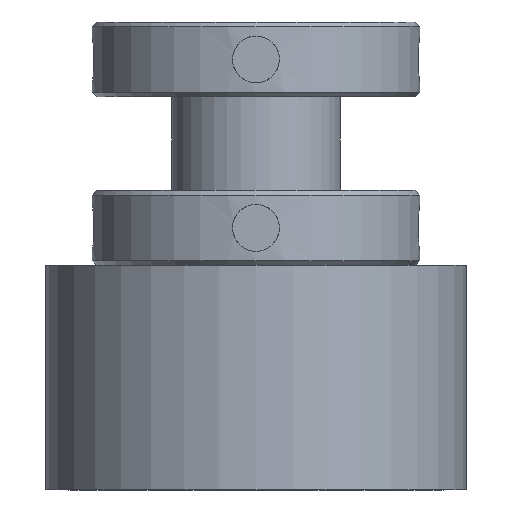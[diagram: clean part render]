
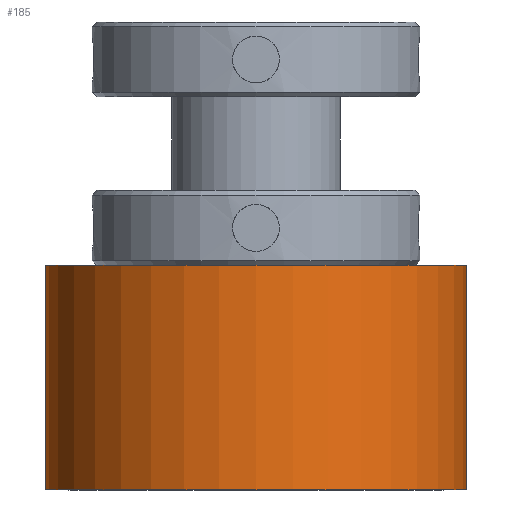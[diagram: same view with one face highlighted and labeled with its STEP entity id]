
A CAD part, front view. The second image highlights one B-rep face of the part: STEP entity #185.
In plain terms, the highlighted cylindrical face has radius 22.5 mm (diameter 45 mm), a full revolution.
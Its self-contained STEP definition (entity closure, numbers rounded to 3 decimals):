
#185=ADVANCED_FACE('',(#241,#242),#225,.T.);
#225=CYLINDRICAL_SURFACE('',#555,22.5);
#241=FACE_BOUND('',#301,.T.);
#242=FACE_BOUND('',#302,.T.);
#301=EDGE_LOOP('',(#375));
#302=EDGE_LOOP('',(#376));
#375=ORIENTED_EDGE('',*,*,#486,.F.);
#376=ORIENTED_EDGE('',*,*,#487,.T.);
#449=VERTEX_POINT('',#764);
#450=VERTEX_POINT('',#766);
#486=EDGE_CURVE('',#449,#449,#523,.T.);
#487=EDGE_CURVE('',#450,#450,#524,.T.);
#523=CIRCLE('',#553,22.5);
#524=CIRCLE('',#554,22.5);
#553=AXIS2_PLACEMENT_3D('',#763,#624,#625);
#554=AXIS2_PLACEMENT_3D('',#765,#626,#627);
#555=AXIS2_PLACEMENT_3D('',#767,#628,#629);
#624=DIRECTION('',(0.,0.,1.));
#625=DIRECTION('',(1.,0.,0.));
#626=DIRECTION('',(0.,0.,1.));
#627=DIRECTION('',(1.,0.,0.));
#628=DIRECTION('',(0.,0.,-1.));
#629=DIRECTION('',(-1.,0.,0.));
#763=CARTESIAN_POINT('',(0.,0.,24.));
#764=CARTESIAN_POINT('',(22.5,0.,24.));
#765=CARTESIAN_POINT('',(0.,0.,0.));
#766=CARTESIAN_POINT('',(22.5,0.,0.));
#767=CARTESIAN_POINT('',(0.,0.,24.));
